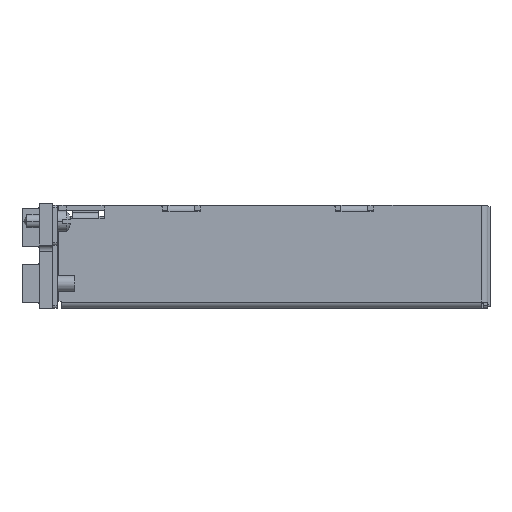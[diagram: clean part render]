
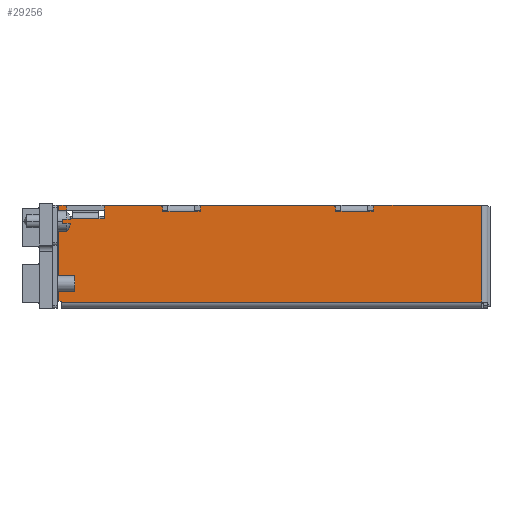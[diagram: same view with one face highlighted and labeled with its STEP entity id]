
A CAD part, front view. The second image highlights one B-rep face of the part: STEP entity #29256.
In plain terms, the highlighted planar face has unit normal (0, -1, 0).
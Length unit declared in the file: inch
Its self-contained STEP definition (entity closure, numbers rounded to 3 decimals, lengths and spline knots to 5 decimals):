
#5447=DIRECTION('',(0.,0.,-1.));
#5448=VECTOR('',#5447,0.082);
#5449=CARTESIAN_POINT('',(-3.129,0.7087,0.71099));
#5450=LINE('',#5449,#5448);
#5451=DIRECTION('',(1.,0.,0.));
#5452=VECTOR('',#5451,0.04);
#5453=CARTESIAN_POINT('',(-3.129,0.7087,0.62899));
#5454=LINE('',#5453,#5452);
#5455=DIRECTION('',(-1.,0.,0.));
#5456=VECTOR('',#5455,0.2);
#5457=CARTESIAN_POINT('',(-2.889,0.7087,0.62899));
#5458=LINE('',#5457,#5456);
#5459=DIRECTION('',(1.,0.,0.));
#5460=VECTOR('',#5459,0.04);
#5461=CARTESIAN_POINT('',(-2.889,0.7087,0.62899));
#5462=LINE('',#5461,#5460);
#5463=DIRECTION('',(0.,0.,-1.));
#5464=VECTOR('',#5463,0.082);
#5465=CARTESIAN_POINT('',(-2.849,0.7087,0.71099));
#5466=LINE('',#5465,#5464);
#5467=DIRECTION('',(0.,0.,-1.));
#5468=VECTOR('',#5467,0.026);
#5469=CARTESIAN_POINT('',(-2.415,0.7087,0.71099));
#5470=LINE('',#5469,#5468);
#5471=DIRECTION('',(-1.,0.,0.));
#5472=VECTOR('',#5471,0.04);
#5473=CARTESIAN_POINT('',(-2.375,0.7087,0.68499));
#5474=LINE('',#5473,#5472);
#5475=DIRECTION('',(-1.,0.,0.));
#5476=VECTOR('',#5475,0.2);
#5477=CARTESIAN_POINT('',(-2.175,0.7087,0.68499));
#5478=LINE('',#5477,#5476);
#5479=DIRECTION('',(-1.,0.,0.));
#5480=VECTOR('',#5479,0.04);
#5481=CARTESIAN_POINT('',(-2.135,0.7087,0.68499));
#5482=LINE('',#5481,#5480);
#5483=DIRECTION('',(0.,0.,-1.));
#5484=VECTOR('',#5483,0.026);
#5485=CARTESIAN_POINT('',(-2.135,0.7087,0.71099));
#5486=LINE('',#5485,#5484);
#5487=DIRECTION('',(0.,0.,-1.));
#5488=VECTOR('',#5487,0.026);
#5489=CARTESIAN_POINT('',(-1.125,0.7087,0.71099));
#5490=LINE('',#5489,#5488);
#5491=DIRECTION('',(1.,0.,0.));
#5492=VECTOR('',#5491,0.04);
#5493=CARTESIAN_POINT('',(-1.125,0.7087,0.68499));
#5494=LINE('',#5493,#5492);
#5495=DIRECTION('',(-1.,0.,0.));
#5496=VECTOR('',#5495,0.2);
#5497=CARTESIAN_POINT('',(-0.885,0.7087,0.68499));
#5498=LINE('',#5497,#5496);
#5499=DIRECTION('',(1.,0.,0.));
#5500=VECTOR('',#5499,0.04);
#5501=CARTESIAN_POINT('',(-0.885,0.7087,0.68499));
#5502=LINE('',#5501,#5500);
#5503=DIRECTION('',(0.,0.,-1.));
#5504=VECTOR('',#5503,0.026);
#5505=CARTESIAN_POINT('',(-0.845,0.7087,0.71099));
#5506=LINE('',#5505,#5504);
#5507=DIRECTION('',(0.,0.,1.));
#5508=VECTOR('',#5507,0.72099);
#5509=CARTESIAN_POINT('',(-0.035,0.7087,0.01));
#5510=LINE('',#5509,#5508);
#5511=DIRECTION('',(0.,0.,1.));
#5512=VECTOR('',#5511,0.00629);
#5513=CARTESIAN_POINT('',(-3.169,0.7087,0.01));
#5514=LINE('',#5513,#5512);
#5515=DIRECTION('',(-1.,0.,0.));
#5516=VECTOR('',#5515,0.02);
#5517=CARTESIAN_POINT('',(-3.169,0.7087,0.01629));
#5518=LINE('',#5517,#5516);
#5519=DIRECTION('',(0.,0.,1.));
#5520=VECTOR('',#5519,0.7147);
#5521=CARTESIAN_POINT('',(-3.189,0.7087,0.01629));
#5522=LINE('',#5521,#5520);
#5527=CARTESIAN_POINT('',(-3.149,0.7087,0.71099));
#5528=DIRECTION('',(0.,-1.,0.));
#5529=DIRECTION('',(1.,0.,0.));
#5530=AXIS2_PLACEMENT_3D('',#5527,#5528,#5529);
#5637=DIRECTION('',(-1.,0.,0.));
#5638=VECTOR('',#5637,0.04);
#5639=CARTESIAN_POINT('',(-3.149,0.7087,0.73099));
#5640=LINE('',#5639,#5638);
#5662=DIRECTION('',(-1.,0.,0.));
#5663=VECTOR('',#5662,3.134);
#5664=CARTESIAN_POINT('',(-0.035,0.7087,0.01));
#5665=LINE('',#5664,#5663);
#7899=DIRECTION('',(-1.,0.,0.));
#7900=VECTOR('',#7899,0.79);
#7901=CARTESIAN_POINT('',(-0.035,0.7087,0.73099));
#7902=LINE('',#7901,#7900);
#7907=CARTESIAN_POINT('',(-0.825,0.7087,0.71099));
#7908=DIRECTION('',(0.,-1.,0.));
#7909=DIRECTION('',(0.,0.,1.));
#7910=AXIS2_PLACEMENT_3D('',#7907,#7908,#7909);
#8009=CARTESIAN_POINT('',(-1.145,0.7087,0.71099));
#8010=DIRECTION('',(0.,-1.,0.));
#8011=DIRECTION('',(1.,0.,0.));
#8012=AXIS2_PLACEMENT_3D('',#8009,#8010,#8011);
#8023=DIRECTION('',(-1.,0.,0.));
#8024=VECTOR('',#8023,0.97);
#8025=CARTESIAN_POINT('',(-1.145,0.7087,0.73099));
#8026=LINE('',#8025,#8024);
#8040=CARTESIAN_POINT('',(-2.115,0.7087,0.71099));
#8041=DIRECTION('',(0.,-1.,0.));
#8042=DIRECTION('',(0.,0.,1.));
#8043=AXIS2_PLACEMENT_3D('',#8040,#8041,#8042);
#8142=CARTESIAN_POINT('',(-2.435,0.7087,0.71099));
#8143=DIRECTION('',(0.,-1.,0.));
#8144=DIRECTION('',(1.,0.,0.));
#8145=AXIS2_PLACEMENT_3D('',#8142,#8143,#8144);
#8147=DIRECTION('',(-1.,0.,0.));
#8148=VECTOR('',#8147,0.394);
#8149=CARTESIAN_POINT('',(-2.435,0.7087,0.73099));
#8150=LINE('',#8149,#8148);
#8155=CARTESIAN_POINT('',(-2.829,0.7087,0.71099));
#8156=DIRECTION('',(0.,-1.,0.));
#8157=DIRECTION('',(0.,0.,1.));
#8158=AXIS2_PLACEMENT_3D('',#8155,#8156,#8157);
#19840=CARTESIAN_POINT('',(-3.169,0.7087,0.01629));
#19842=VERTEX_POINT('',#19840);
#19861=CARTESIAN_POINT('',(-3.169,0.7087,0.01));
#19862=VERTEX_POINT('',#19861);
#19865=CARTESIAN_POINT('',(-3.189,0.7087,0.01629));
#19866=VERTEX_POINT('',#19865);
#19871=CARTESIAN_POINT('',(-3.189,0.7087,0.73099));
#19872=VERTEX_POINT('',#19871);
#19945=CARTESIAN_POINT('',(-0.035,0.7087,0.01));
#19946=VERTEX_POINT('',#19945);
#19951=CARTESIAN_POINT('',(-0.035,0.7087,0.73099));
#19952=VERTEX_POINT('',#19951);
#20087=CARTESIAN_POINT('',(-2.135,0.7087,0.68499));
#20089=VERTEX_POINT('',#20087);
#20091=CARTESIAN_POINT('',(-2.415,0.7087,0.68499));
#20093=VERTEX_POINT('',#20091);
#20103=CARTESIAN_POINT('',(-2.375,0.7087,0.68499));
#20104=VERTEX_POINT('',#20103);
#20105=CARTESIAN_POINT('',(-2.175,0.7087,0.68499));
#20106=VERTEX_POINT('',#20105);
#20120=CARTESIAN_POINT('',(-1.125,0.7087,0.68499));
#20122=VERTEX_POINT('',#20120);
#20124=CARTESIAN_POINT('',(-0.845,0.7087,0.68499));
#20126=VERTEX_POINT('',#20124);
#20139=CARTESIAN_POINT('',(-0.885,0.7087,0.68499));
#20140=VERTEX_POINT('',#20139);
#20141=CARTESIAN_POINT('',(-1.085,0.7087,0.68499));
#20142=VERTEX_POINT('',#20141);
#20152=CARTESIAN_POINT('',(-3.129,0.7087,0.62899));
#20154=VERTEX_POINT('',#20152);
#20156=CARTESIAN_POINT('',(-2.849,0.7087,0.62899));
#20158=VERTEX_POINT('',#20156);
#20163=CARTESIAN_POINT('',(-3.089,0.7087,0.62899));
#20164=VERTEX_POINT('',#20163);
#20165=CARTESIAN_POINT('',(-2.889,0.7087,0.62899));
#20166=VERTEX_POINT('',#20165);
#20317=CARTESIAN_POINT('',(-3.129,0.7087,0.71099));
#20319=VERTEX_POINT('',#20317);
#20321=CARTESIAN_POINT('',(-3.149,0.7087,0.73099));
#20322=VERTEX_POINT('',#20321);
#20325=CARTESIAN_POINT('',(-2.829,0.7087,0.73099));
#20327=VERTEX_POINT('',#20325);
#20329=CARTESIAN_POINT('',(-2.849,0.7087,0.71099));
#20330=VERTEX_POINT('',#20329);
#20334=CARTESIAN_POINT('',(-2.435,0.7087,0.73099));
#20336=VERTEX_POINT('',#20334);
#20339=CARTESIAN_POINT('',(-2.415,0.7087,0.71099));
#20340=VERTEX_POINT('',#20339);
#20342=CARTESIAN_POINT('',(-2.135,0.7087,0.71099));
#20344=VERTEX_POINT('',#20342);
#20347=CARTESIAN_POINT('',(-2.115,0.7087,0.73099));
#20348=VERTEX_POINT('',#20347);
#20349=CARTESIAN_POINT('',(-1.125,0.7087,0.71099));
#20351=VERTEX_POINT('',#20349);
#20353=CARTESIAN_POINT('',(-1.145,0.7087,0.73099));
#20354=VERTEX_POINT('',#20353);
#20357=CARTESIAN_POINT('',(-0.825,0.7087,0.73099));
#20359=VERTEX_POINT('',#20357);
#20361=CARTESIAN_POINT('',(-0.845,0.7087,0.71099));
#20362=VERTEX_POINT('',#20361);
#29190=CARTESIAN_POINT('',(0.,0.7087,0.73099));
#29191=DIRECTION('',(0.,1.,0.));
#29192=DIRECTION('',(-1.,0.,0.));
#29193=AXIS2_PLACEMENT_3D('',#29190,#29191,#29192);
#29194=PLANE('',#29193);
#29196=ORIENTED_EDGE('',*,*,#29195,.F.);
#29198=ORIENTED_EDGE('',*,*,#29197,.T.);
#29200=ORIENTED_EDGE('',*,*,#29199,.T.);
#29202=ORIENTED_EDGE('',*,*,#29201,.F.);
#29204=ORIENTED_EDGE('',*,*,#29203,.T.);
#29206=ORIENTED_EDGE('',*,*,#29205,.F.);
#29208=ORIENTED_EDGE('',*,*,#29207,.F.);
#29210=ORIENTED_EDGE('',*,*,#29209,.F.);
#29212=ORIENTED_EDGE('',*,*,#29211,.F.);
#29214=ORIENTED_EDGE('',*,*,#29213,.T.);
#29216=ORIENTED_EDGE('',*,*,#29215,.F.);
#29218=ORIENTED_EDGE('',*,*,#29217,.F.);
#29220=ORIENTED_EDGE('',*,*,#29219,.F.);
#29222=ORIENTED_EDGE('',*,*,#29221,.F.);
#29224=ORIENTED_EDGE('',*,*,#29223,.F.);
#29226=ORIENTED_EDGE('',*,*,#29225,.F.);
#29228=ORIENTED_EDGE('',*,*,#29227,.F.);
#29230=ORIENTED_EDGE('',*,*,#29229,.T.);
#29232=ORIENTED_EDGE('',*,*,#29231,.T.);
#29234=ORIENTED_EDGE('',*,*,#29233,.F.);
#29236=ORIENTED_EDGE('',*,*,#29235,.T.);
#29238=ORIENTED_EDGE('',*,*,#29237,.F.);
#29240=ORIENTED_EDGE('',*,*,#29239,.F.);
#29242=ORIENTED_EDGE('',*,*,#29241,.F.);
#29244=ORIENTED_EDGE('',*,*,#29243,.F.);
#29246=ORIENTED_EDGE('',*,*,#29245,.T.);
#29248=ORIENTED_EDGE('',*,*,#29247,.T.);
#29250=ORIENTED_EDGE('',*,*,#29249,.T.);
#29251=ORIENTED_EDGE('',*,*,#29184,.T.);
#29253=ORIENTED_EDGE('',*,*,#29252,.F.);
#29254=EDGE_LOOP('',(#29196,#29198,#29200,#29202,#29204,#29206,#29208,#29210,
#29212,#29214,#29216,#29218,#29220,#29222,#29224,#29226,#29228,#29230,#29232,
#29234,#29236,#29238,#29240,#29242,#29244,#29246,#29248,#29250,#29251,#29253));
#29255=FACE_OUTER_BOUND('',#29254,.F.);
#29256=ADVANCED_FACE('',(#29255),#29194,.F.);
#5531=CIRCLE('',#5530,0.02);
#7911=CIRCLE('',#7910,0.02);
#8013=CIRCLE('',#8012,0.02);
#8044=CIRCLE('',#8043,0.02);
#8146=CIRCLE('',#8145,0.02);
#8159=CIRCLE('',#8158,0.02);
#29184=EDGE_CURVE('',#19866,#19872,#5522,.T.);
#29195=EDGE_CURVE('',#20319,#20322,#5531,.T.);
#29197=EDGE_CURVE('',#20319,#20154,#5450,.T.);
#29199=EDGE_CURVE('',#20154,#20164,#5454,.T.);
#29201=EDGE_CURVE('',#20166,#20164,#5458,.T.);
#29203=EDGE_CURVE('',#20166,#20158,#5462,.T.);
#29205=EDGE_CURVE('',#20330,#20158,#5466,.T.);
#29207=EDGE_CURVE('',#20327,#20330,#8159,.T.);
#29209=EDGE_CURVE('',#20336,#20327,#8150,.T.);
#29211=EDGE_CURVE('',#20340,#20336,#8146,.T.);
#29213=EDGE_CURVE('',#20340,#20093,#5470,.T.);
#29215=EDGE_CURVE('',#20104,#20093,#5474,.T.);
#29217=EDGE_CURVE('',#20106,#20104,#5478,.T.);
#29219=EDGE_CURVE('',#20089,#20106,#5482,.T.);
#29221=EDGE_CURVE('',#20344,#20089,#5486,.T.);
#29223=EDGE_CURVE('',#20348,#20344,#8044,.T.);
#29225=EDGE_CURVE('',#20354,#20348,#8026,.T.);
#29227=EDGE_CURVE('',#20351,#20354,#8013,.T.);
#29229=EDGE_CURVE('',#20351,#20122,#5490,.T.);
#29231=EDGE_CURVE('',#20122,#20142,#5494,.T.);
#29233=EDGE_CURVE('',#20140,#20142,#5498,.T.);
#29235=EDGE_CURVE('',#20140,#20126,#5502,.T.);
#29237=EDGE_CURVE('',#20362,#20126,#5506,.T.);
#29239=EDGE_CURVE('',#20359,#20362,#7911,.T.);
#29241=EDGE_CURVE('',#19952,#20359,#7902,.T.);
#29243=EDGE_CURVE('',#19946,#19952,#5510,.T.);
#29245=EDGE_CURVE('',#19946,#19862,#5665,.T.);
#29247=EDGE_CURVE('',#19862,#19842,#5514,.T.);
#29249=EDGE_CURVE('',#19842,#19866,#5518,.T.);
#29252=EDGE_CURVE('',#20322,#19872,#5640,.T.);
